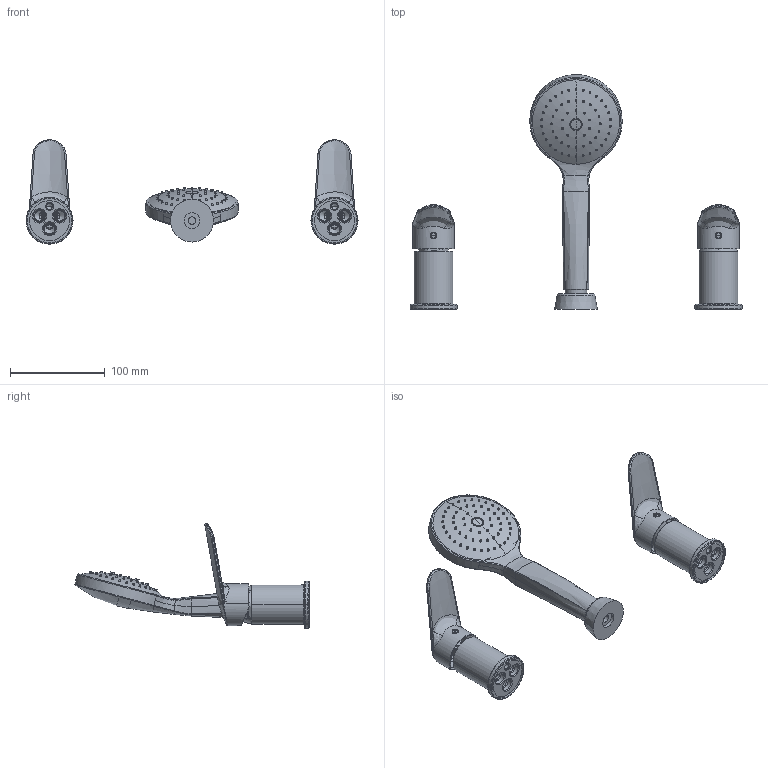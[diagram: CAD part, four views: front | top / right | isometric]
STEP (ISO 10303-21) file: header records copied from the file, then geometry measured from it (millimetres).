
FILE_DESCRIPTION((''),'2;1');
FILE_NAME('F3014_1_FILE_3D','2018-11-26T',('ivanv'),(''),'CREO PARAMETRIC BY PTC INC, 2016260','CREO PARAMETRIC BY PTC INC, 2016260','');
FILE_SCHEMA(('CONFIG_CONTROL_DESIGN'));
Length unit declared in the file: millimetre
Products named in the file (1): F3014_1_FILE_3D
Bounding box: 349.5 x 246.88 x 109.83 mm (x, y, z)
Volume: 394180.6 mm3; surface area: 114609.1 mm2
Topology: 5 solids, 5 shells, 2286 faces, 5783 edges, 3661 vertices
Faces by surface type: plane 1129, bspline 455, cylinder 306, cone 246, sphere 85, torus 65
Entity records: 107546 total; most frequent: CARTESIAN_POINT 57923, ORIENTED_EDGE 11528, DIRECTION 8235, EDGE_CURVE 5764, VERTEX_POINT 3661, AXIS2_PLACEMENT_3D 2838, VECTOR 2559, LINE 2559
